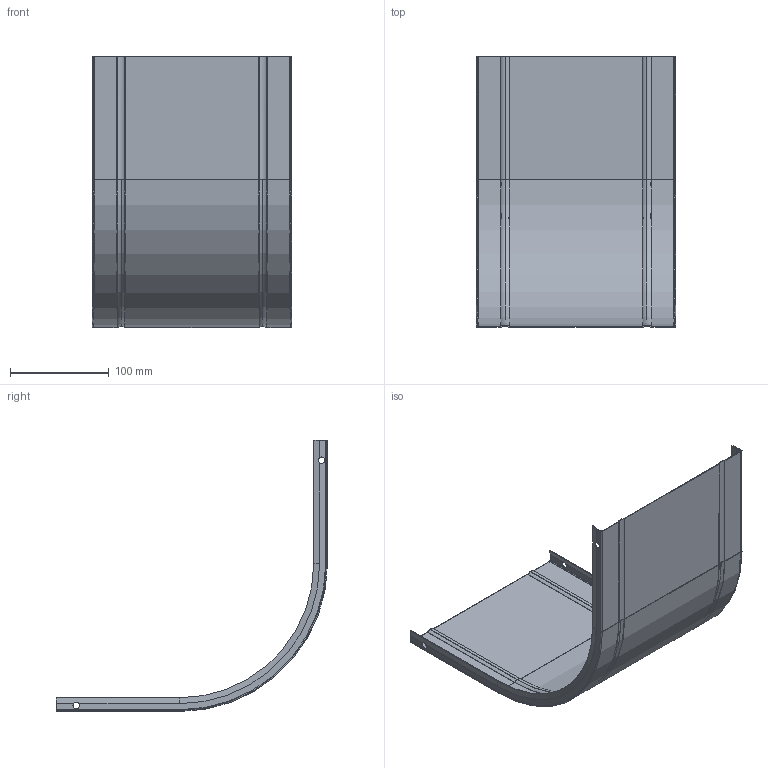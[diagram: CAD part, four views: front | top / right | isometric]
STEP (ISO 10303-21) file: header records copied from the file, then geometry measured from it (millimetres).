
FILE_DESCRIPTION (( 'STEP AP203' ), '1' );
FILE_NAME ('ERE_TAPA CXERC 200x100.step', '2023-07-28T14:52:54', ( '' ), ( '' ), 'SwSTEP 2.0', 'SolidWorks 2022', '' );
FILE_SCHEMA (( 'CONFIG_CONTROL_DESIGN' ));
Length unit declared in the file: millimetre
Products named in the file (1): ERE_TAPA CXERC 200x100
Bounding box: 202 x 275 x 275 mm (x, y, z)
Volume: 88617.2 mm3; surface area: 222041.6 mm2
Topology: 1 solids, 1 shells, 82 faces, 228 edges, 140 vertices
Faces by surface type: cylinder 36, plane 30, torus 12, cone 4
Entity records: 2709 total; most frequent: CARTESIAN_POINT 487, DIRECTION 474, ORIENTED_EDGE 456, EDGE_CURVE 228, AXIS2_PLACEMENT_3D 175, VERTEX_POINT 140, VECTOR 124, LINE 124
